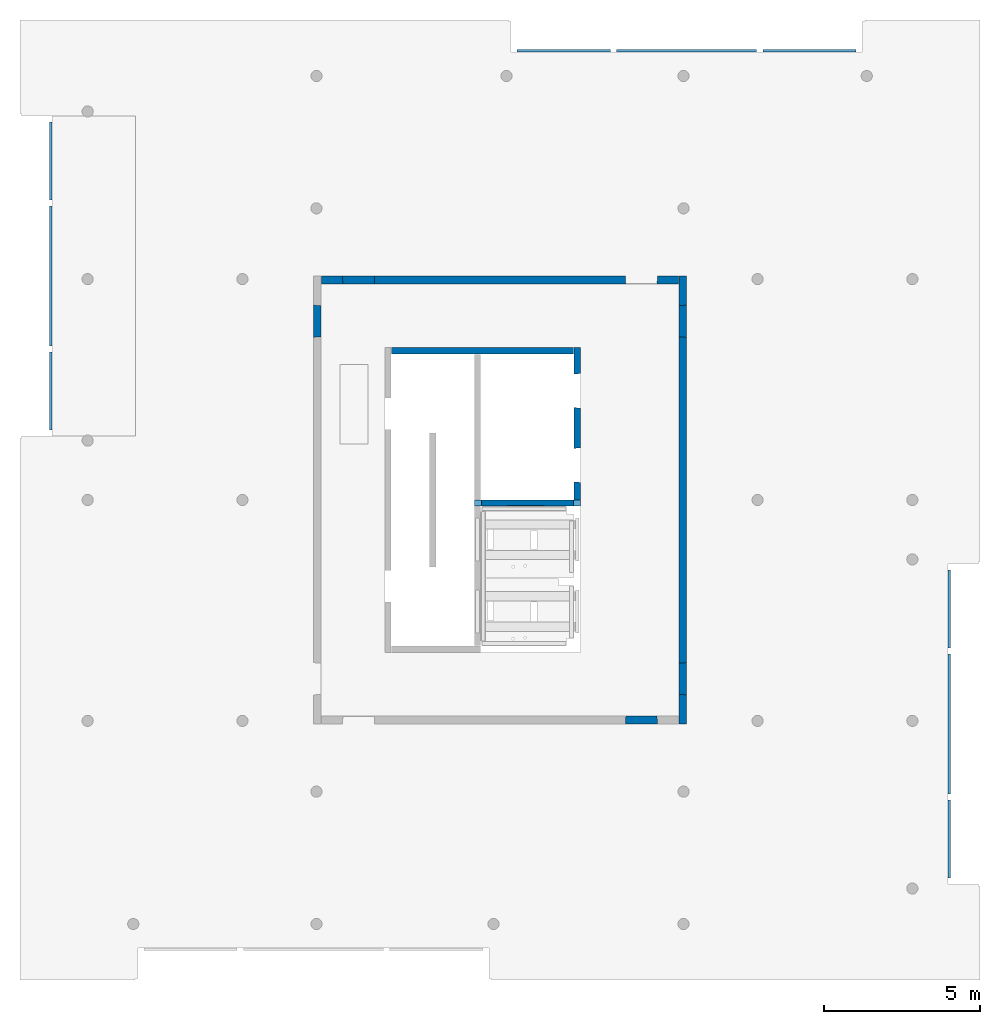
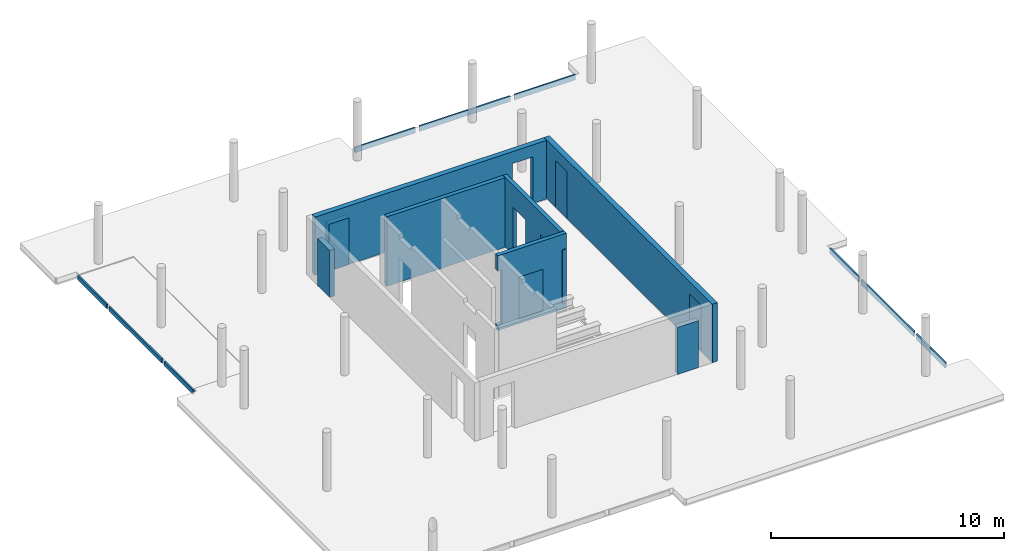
# One storey, part 3 of 4: 21 walls, 10 openings.
"""IFC2X3 building model written with IfcOpenShell, lengths in millimetres."""

from ifc_helpers import new_model, entity, si_unit, converted_unit, derived_unit, direction, frame, frame_2d, origin, origin_2d_with_axis, place, context, subcontext, project, spatial, rectangle, extrude, face_set, faceted_brep, surface_model, material, layer, layer_set, layer_usage, type_object, element, save


model = new_model("IFC2X3")

# Units and contexts
model_context = context("Model", 3, precision=0.01, world=origin(), true_north=direction((6.12303176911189e-17, 1.0)))
body_context = subcontext(model_context, "Body", "Model", "MODEL_VIEW")
ifc_project = project(units=[si_unit("LENGTHUNIT", "METRE", prefix="MILLI"), si_unit("AREAUNIT", "SQUARE_METRE"), si_unit("VOLUMEUNIT", "CUBIC_METRE"), converted_unit("PLANEANGLEUNIT", "DEGREE", entity("IfcRatioMeasure", 0.0174532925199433), si_unit("PLANEANGLEUNIT", "RADIAN"), dimensions=[0, 0, 0, 0, 0, 0, 0]), si_unit("MASSUNIT", "GRAM", prefix="KILO"), derived_unit("MASSDENSITYUNIT", [(si_unit("MASSUNIT", "GRAM", prefix="KILO"), 1), (si_unit("LENGTHUNIT", "METRE"), -3)]), si_unit("TIMEUNIT", "SECOND"), si_unit("FREQUENCYUNIT", "HERTZ"), si_unit("THERMODYNAMICTEMPERATUREUNIT", "DEGREE_CELSIUS"), derived_unit("THERMALTRANSMITTANCEUNIT", [(si_unit("MASSUNIT", "GRAM", prefix="KILO"), 1), (si_unit("THERMODYNAMICTEMPERATUREUNIT", "KELVIN"), -1), (si_unit("TIMEUNIT", "SECOND"), -3)]), derived_unit("VOLUMETRICFLOWRATEUNIT", [(si_unit("LENGTHUNIT", "METRE"), 3), (si_unit("TIMEUNIT", "SECOND"), -1)]), si_unit("ELECTRICCURRENTUNIT", "AMPERE"), si_unit("ELECTRICVOLTAGEUNIT", "VOLT"), si_unit("POWERUNIT", "WATT"), si_unit("FORCEUNIT", "NEWTON", prefix="KILO"), si_unit("ILLUMINANCEUNIT", "LUX"), si_unit("LUMINOUSFLUXUNIT", "LUMEN"), si_unit("LUMINOUSINTENSITYUNIT", "CANDELA"), derived_unit("USERDEFINED", [(si_unit("MASSUNIT", "GRAM", prefix="KILO"), -1), (si_unit("LENGTHUNIT", "METRE"), -2), (si_unit("TIMEUNIT", "SECOND"), 3), (si_unit("LUMINOUSFLUXUNIT", "LUMEN"), 1)]), derived_unit("LINEARVELOCITYUNIT", [(si_unit("LENGTHUNIT", "METRE"), 1), (si_unit("TIMEUNIT", "SECOND"), -1)]), si_unit("PRESSUREUNIT", "PASCAL"), derived_unit("USERDEFINED", [(si_unit("LENGTHUNIT", "METRE"), -2), (si_unit("MASSUNIT", "GRAM", prefix="KILO"), 1), (si_unit("TIMEUNIT", "SECOND"), -2)])], contexts=[model_context])

# Site, building, storey
site_placement = place(None, origin())
site = spatial("IfcSite", under=ifc_project, at=site_placement, Name="Default", CompositionType="ELEMENT")
building_placement = place(site_placement, origin())
building = spatial("IfcBuilding", under=site, at=building_placement, Name="niet gebruiken", CompositionType="ELEMENT")
storey_placement = place(building_placement, frame((0.0, 0.0, 175180.0)))
storey = spatial("IfcBuildingStorey", under=building, at=storey_placement, Name="56 zesenvijftigste verdieping", CompositionType="ELEMENT", Elevation=175180.0)

# Wall, openings
ifc_material_1 = material(Name="NLRS_f2_beton prefab")
ifc_layer_1 = layer(ifc_material_1, 200.0)
ifc_layer_set_1 = layer_set([ifc_layer_1], Name="Basic Wall:NLRS_22.21_WA_beton prefab d=200_gen")
ifc_layer_usage_1 = layer_usage(ifc_layer_set_1, "AXIS2", "NEGATIVE", 100.0)
wall_type_1 = type_object("IfcWallType", Name="Basic Wall:NLRS_22.21_WA_beton prefab d=200_gen", PredefinedType="STANDARD", material=ifc_layer_set_1)
wall_1_placement = place(storey_placement, frame((144230.0, 22400.0, -50.0), z_axis=(0.0, 0.0, 1.0), x_axis=(0.0, -1.0, 0.0)))
wall_1 = element("IfcWallStandardCase", 1, at=wall_1_placement, inside=storey, type_object=wall_type_1, material=ifc_layer_usage_1, Name="Basic Wall:NLRS_22.21_WA_beton prefab d=200_gen", ObjectType="Basic Wall:NLRS_22.21_WA_beton prefab d=200_gen", context=body_context, shape_type="SweptSolid", body=[
    extrude(rectangle(XDim=5100.0, YDim=199.999999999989, at=frame_2d((2550.0, 3.96482846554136e-12), x_axis=(-1.0, 0.0))), origin(), (0.0, 0.0, 1.0), 3640.0),
])
opening_1_placement = place(wall_1_placement, origin())
element("IfcOpeningElement", 2, at=opening_1_placement, cuts=wall_1, Name="Basic Wall:NLRS_22.21_WA_beton prefab d=200_gen", ObjectType="Opening", context=body_context, shape_type="SweptSolid", body=[
    extrude(rectangle(XDim=819.999999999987, YDim=220.000000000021, at=frame_2d((-1.73372427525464e-11, -1.08002495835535e-12), x_axis=(1.0, 0.0))), frame((4990.0, -100.0, 3230.0), z_axis=(0.0, 1.0, 0.0), x_axis=(0.0, 0.0, -1.0)), (0.0, 0.0, 1.0), 199.999999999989),
])
opening_2_placement = place(wall_1_placement, frame((4332.0, -100.0, 0.0)))
element("IfcOpeningElement", 3, at=opening_2_placement, cuts=wall_1, Name="Basic Wall:NLRS_22.21_WA_beton prefab d=200_gen", ObjectType="Opening", context=body_context, shape_type="Brep", body=[
    faceted_brep([(-1104.0, 200.0, 2502.0), (-1104.0, 200.0, 0.0), (-1092.0, 0.0, 0.0), (-1092.0, 0.0, 2490.0), (0.0, 200.0, 0.0), (-12.0, 0.0, 0.0), (-12.0, 0.0, 2490.0), (0.0, 200.0, 2502.0)], [[[0, 1, 2, 3]], [[1, 4, 5, 2]], [[6, 3, 2, 5]], [[7, 4, 1, 0]], [[7, 0, 3, 6]], [[4, 7, 6, 5]]]),
])
opening_3_placement = place(wall_1_placement, frame((1942.0, -100.0, 0.0)))
element("IfcOpeningElement", 4, at=opening_3_placement, cuts=wall_1, Name="Basic Wall:NLRS_22.21_WA_beton prefab d=200_gen", ObjectType="Opening", context=body_context, shape_type="Brep", body=[
    faceted_brep([(-1104.0, 200.0, 2502.0), (-1104.0, 200.0, 0.0), (-1092.0, 0.0, 0.0), (-1092.0, 0.0, 2490.0), (0.0, 200.0, 0.0), (-12.0, 0.0, 0.0), (-12.0, 0.0, 2490.0), (0.0, 200.0, 2502.0)], [[[0, 1, 2, 3]], [[1, 4, 5, 2]], [[6, 3, 2, 5]], [[7, 4, 1, 0]], [[7, 0, 3, 6]], [[4, 7, 6, 5]]]),
])

# Wall
ifc_layer_usage_2 = layer_usage(ifc_layer_set_1, "AXIS2", "NEGATIVE", 100.0)
wall_2_placement = place(storey_placement, frame((138270.0, 22300.0, -50.0)))
element("IfcWallStandardCase", 5, at=wall_2_placement, inside=storey, type_object=wall_type_1, material=ifc_layer_usage_2, Name="Basic Wall:NLRS_22.21_WA_beton prefab d=200_gen", ObjectType="Basic Wall:NLRS_22.21_WA_beton prefab d=200_gen", context=body_context, shape_type="SweptSolid", body=[
    extrude(rectangle(XDim=5839.99999999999, YDim=199.999999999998, at=frame_2d((2919.99999999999, -7.60280727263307e-13), x_axis=(-1.0, 0.0))), origin(), (0.0, 0.0, 1.0), 3640.0),
])

# Wall, openings
ifc_layer_usage_3 = layer_usage(ifc_layer_set_1, "AXIS2", "NEGATIVE", 100.0)
wall_3_placement = place(storey_placement, frame((140930.0, 17400.0, -320.0)))
wall_3 = element("IfcWallStandardCase", 6, at=wall_3_placement, inside=storey, type_object=wall_type_1, material=ifc_layer_usage_3, Name="Basic Wall:NLRS_22.21_WA_beton prefab d=200_gen", ObjectType="Basic Wall:NLRS_22.21_WA_beton prefab d=200_gen", context=body_context, shape_type="SweptSolid", body=[
    extrude(rectangle(XDim=3400.00000000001, YDim=200.000000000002, at=frame_2d((1700.0, 0.0), x_axis=(-1.0, 0.0))), origin(), (0.0, 0.0, 1.0), 3910.00000000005),
])
opening_4_placement = place(wall_3_placement, origin())
element("IfcOpeningElement", 7, at=opening_4_placement, cuts=wall_3, Name="Basic Wall:NLRS_22.21_WA_beton prefab d=200_gen", ObjectType="Opening", context=body_context, shape_type="SweptSolid", body=[
    extrude(rectangle(XDim=2840.00000000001, YDim=220.000000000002, at=frame_2d((1.72803993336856e-11, 8.66862137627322e-12), x_axis=(1.0, 0.0))), frame((110.0, -100.0, 1690.0), z_axis=(0.0, 1.0, 0.0), x_axis=(0.0, 0.0, -1.0)), (0.0, 0.0, 1.0), 200.0),
])
opening_5_placement = place(wall_3_placement, origin())
element("IfcOpeningElement", 8, at=opening_5_placement, cuts=wall_3, Name="Basic Wall:NLRS_22.21_WA_beton prefab d=200_gen", ObjectType="Opening", context=body_context, shape_type="SweptSolid", body=[
    extrude(rectangle(XDim=2840.00000000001, YDim=220.000000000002, at=frame_2d((1.72803993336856e-11, -8.66862137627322e-12), x_axis=(1.0, 0.0))), frame((3290.0, -100.0, 1690.0), z_axis=(0.0, 1.0, 0.0), x_axis=(0.0, 0.0, -1.0)), (0.0, 0.0, 1.0), 199.999999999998),
])
opening_6_placement = place(wall_3_placement, origin())
element("IfcOpeningElement", 9, at=opening_6_placement, cuts=wall_3, Name="Basic Wall:NLRS_22.21_WA_beton prefab d=200_gen", ObjectType="Recess", context=body_context, shape_type="SweptSolid", body=[
    extrude(rectangle(XDim=2199.99999999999, YDim=1200.0, at=origin_2d_with_axis()), frame((1650.0, -100.0, 1330.0), z_axis=(0.0, 1.0, 0.0), x_axis=(0.0, 0.0, -1.0)), (0.0, 0.0, 1.0), 29.9999999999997),
])

ifc_layer_2 = layer(ifc_material_1, 250.0)
ifc_layer_set_2 = layer_set([ifc_layer_2], Name="Basic Wall:NLRS_22.21_WA_beton prefab d=250_gen")
ifc_layer_usage_4 = layer_usage(ifc_layer_set_2, "AXIS2", "NEGATIVE", 125.0)
wall_type_2 = type_object("IfcWallType", Name="Basic Wall:NLRS_22.21_WA_beton prefab d=250_gen", PredefinedType="STANDARD", material=ifc_layer_set_2)
wall_4_placement = place(storey_placement, frame((136020.0, 24575.0, -60.0)))
wall_4 = element("IfcWallStandardCase", 10, at=wall_4_placement, inside=storey, type_object=wall_type_2, material=ifc_layer_usage_4, Name="Basic Wall:NLRS_22.21_WA_beton prefab d=250_gen", ObjectType="Basic Wall:NLRS_22.21_WA_beton prefab d=250_gen", context=body_context, shape_type="SweptSolid", body=[
    extrude(rectangle(XDim=11460.0, YDim=250.000000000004, at=frame_2d((5730.00000000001, 0.0), x_axis=(-1.0, 0.0))), origin(), (0.0, 0.0, 1.0), 3060.0),
])
opening_7_placement = place(wall_4_placement, frame((9759.0, -125.0, -10.0)))
element("IfcOpeningElement", 11, at=opening_7_placement, cuts=wall_4, Name="Basic Wall:NLRS_22.21_WA_beton prefab d=250_gen", ObjectType="Opening", context=body_context, shape_type="Brep", body=[
    faceted_brep([(0.0, 250.0, 2463.0), (0.0, 250.0, 0.0), (15.0, 0.0, 0.0), (15.0, 0.0, 2448.0), (1036.0, 250.0, 0.0), (1021.0, 0.0, 0.0), (1021.0, 0.0, 2448.0), (1036.0, 250.0, 2463.0)], [[[0, 1, 2, 3]], [[1, 4, 5, 2]], [[6, 3, 2, 5]], [[7, 4, 1, 0]], [[7, 0, 3, 6]], [[4, 7, 6, 5]]]),
])
opening_8_placement = place(wall_4_placement, frame((665.0, -125.0, -10.0)))
element("IfcOpeningElement", 12, at=opening_8_placement, cuts=wall_4, Name="Basic Wall:NLRS_22.21_WA_beton prefab d=250_gen", ObjectType="Opening", context=body_context, shape_type="Brep", body=[
    faceted_brep([(0.0, 250.0, 2463.0), (0.0, 250.0, 0.0), (15.0, 0.0, 0.0), (15.0, 0.0, 2448.0), (1036.0, 250.0, 0.0), (1021.0, 0.0, 0.0), (1021.0, 0.0, 2448.0), (1036.0, 250.0, 2463.0)], [[[0, 1, 2, 3]], [[1, 4, 5, 2]], [[6, 3, 2, 5]], [[7, 4, 1, 0]], [[7, 0, 3, 6]], [[4, 7, 6, 5]]]),
])

ifc_layer_usage_5 = layer_usage(ifc_layer_set_2, "AXIS2", "NEGATIVE", 125.0)
wall_5_placement = place(storey_placement, frame((147625.0, 24700.0, -60.0), z_axis=(0.0, 0.0, 1.0), x_axis=(0.0, -1.0, 0.0)))
wall_5 = element("IfcWallStandardCase", 13, at=wall_5_placement, inside=storey, type_object=wall_type_2, material=ifc_layer_usage_5, Name="Basic Wall:NLRS_22.21_WA_beton prefab d=250_gen", ObjectType="Basic Wall:NLRS_22.21_WA_beton prefab d=250_gen", context=body_context, shape_type="SweptSolid", body=[
    extrude(rectangle(XDim=14400.0, YDim=250.000000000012, at=frame_2d((7199.99999999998, 0.0), x_axis=(-1.0, 0.0))), origin(), (0.0, 0.0, 1.0), 3060.0),
])
opening_9_placement = place(wall_5_placement, frame((13465.0, -125.0, -10.0)))
element("IfcOpeningElement", 14, at=opening_9_placement, cuts=wall_5, Name="Basic Wall:NLRS_22.21_WA_beton prefab d=250_gen", ObjectType="Opening", context=body_context, shape_type="Brep", body=[
    faceted_brep([(-1036.0, 250.0, 2463.0), (-1036.0, 250.0, 0.0), (-1021.0, 0.0, 0.0), (-1021.0, 0.0, 2448.0), (0.0, 250.0, 0.0), (-15.0, 0.0, 0.0), (-15.0, 0.0, 2448.0), (0.0, 250.0, 2463.0)], [[[0, 1, 2, 3]], [[1, 4, 5, 2]], [[6, 3, 2, 5]], [[7, 4, 1, 0]], [[7, 0, 3, 6]], [[4, 7, 6, 5]]]),
])
opening_10_placement = place(wall_5_placement, frame((1971.0, -125.0, -10.0)))
element("IfcOpeningElement", 15, at=opening_10_placement, cuts=wall_5, Name="Basic Wall:NLRS_22.21_WA_beton prefab d=250_gen", ObjectType="Opening", context=body_context, shape_type="Brep", body=[
    faceted_brep([(-1036.0, 250.0, 2463.0), (-1036.0, 250.0, 0.0), (-1021.0, 0.0, 0.0), (-1021.0, 0.0, 2448.0), (0.0, 250.0, 0.0), (-15.0, 0.0, 0.0), (-15.0, 0.0, 2448.0), (0.0, 250.0, 2463.0)], [[[0, 1, 2, 3]], [[1, 4, 5, 2]], [[6, 3, 2, 5]], [[7, 4, 1, 0]], [[7, 0, 3, 6]], [[4, 7, 6, 5]]]),
])

# Walls
ifc_material_2 = material(Name="NLRS_f2_beton prefab dichtstorten")
wall_type_3 = type_object("IfcWallType", Name="Parametric Wall:NLRS_22.21_WA_beton prefab d=250 1006x2448_gen", PredefinedType="NOTDEFINED", material=ifc_material_2)
wall_6_placement = place(storey_placement, frame((136685.0, 24450.0, -70.0)))
element("IfcWall", 16, at=wall_6_placement, inside=storey, type_object=wall_type_3, material=ifc_material_2, Name="Parametric Wall:NLRS_22.21_WA_beton prefab d=250 1006x2448_gen", ObjectType="Parametric Wall:NLRS_22.21_WA_beton prefab d=250 1006x2448_gen", context=body_context, shape_type="SurfaceModel", body=[
    surface_model("IfcFaceBasedSurfaceModel", [(1036.0, 250.0, 2463.0), (1036.0, 250.0, 0.0), (0.0, 250.0, 0.0), (0.0, 250.0, 2463.0), (1021.0, 0.0, 2448.0), (1021.0, 0.0, 0.0), (15.0, 0.0, 0.0), (15.0, 0.0, 2448.0)], [face_set([[[0, 1, 2, 3]], [[4, 5, 6, 7]], [[4, 5, 1, 0]], [[5, 6, 2, 1]], [[6, 2, 3, 7]], [[7, 4, 0, 3]]])]),
])
wall_7_placement = place(storey_placement, frame((135750.0, 22729.0, -70.0), z_axis=(0.0, 0.0, 1.0), x_axis=(0.0, 1.0, 0.0)))
element("IfcWall", 17, at=wall_7_placement, inside=storey, type_object=wall_type_3, material=ifc_material_2, Name="Parametric Wall:NLRS_22.21_WA_beton prefab d=250 1006x2448_gen", ObjectType="Parametric Wall:NLRS_22.21_WA_beton prefab d=250 1006x2448_gen", context=body_context, shape_type="Brep", body=[
    faceted_brep([(1036.0, 0.0, 2463.0), (1036.0, 0.0, 0.0), (0.0, 0.0, 0.0), (0.0, 0.0, 2463.0), (1021.0, -250.0, 2448.0), (15.0, -250.0, 2448.0), (15.0, -250.0, 0.0), (1021.0, -250.0, 0.0)], [[[0, 1, 2, 3]], [[4, 5, 6, 7]], [[4, 7, 1, 0]], [[7, 6, 2, 1]], [[6, 5, 3, 2]], [[5, 4, 0, 3]]]),
])
wall_8_placement = place(storey_placement, frame((145779.0, 10300.0, -70.0)))
element("IfcWall", 18, at=wall_8_placement, inside=storey, type_object=wall_type_3, material=ifc_material_2, Name="Parametric Wall:NLRS_22.21_WA_beton prefab d=250 1006x2448_gen", ObjectType="Parametric Wall:NLRS_22.21_WA_beton prefab d=250 1006x2448_gen", context=body_context, shape_type="Brep", body=[
    faceted_brep([(0.0, 0.0, 2463.0), (0.0, 0.0, 10.0), (0.0, 0.0, 0.0), (1036.0, 0.0, 0.0), (1036.0, 0.0, 10.0), (1036.0, 0.0, 2463.0), (15.0, 250.0, 2448.0), (1021.0, 250.0, 2448.0), (1021.0, 250.0, 10.0), (1021.0, 250.0, 0.0), (15.0, 250.0, 0.0), (15.0, 250.0, 10.0)], [[[0, 1, 2, 3, 4, 5]], [[6, 7, 8, 9, 10, 11]], [[6, 11, 10, 2, 1, 0]], [[9, 8, 7, 5, 4, 3]], [[10, 9, 3, 2]], [[7, 6, 0, 5]]]),
])
for number, where, z_axis, x_axis in (
    (19, (147500.0, 11235.0, -70.0), (0.0, 0.0, 1.0), (0.0, 1.0, 0.0)),
    (20, (147500.0, 22729.0, -70.0), (0.0, 0.0, 1.0), (0.0, 1.0, 0.0)),
):
    element("IfcWall", number, at=place(storey_placement, frame(where, z_axis=z_axis, x_axis=x_axis)), inside=storey, type_object=wall_type_3, material=ifc_material_2, Name="Parametric Wall:NLRS_22.21_WA_beton prefab d=250 1006x2448_gen", ObjectType="Parametric Wall:NLRS_22.21_WA_beton prefab d=250 1006x2448_gen", context=body_context, shape_type="Brep", body=[
        faceted_brep([(0.0, -250.0, 2463.0), (0.0, -250.0, 10.0), (0.0, -250.0, 0.0), (1036.0, -250.0, 0.0), (1036.0, -250.0, 10.0), (1036.0, -250.0, 2463.0), (15.0, 0.0, 2448.0), (1021.0, 0.0, 2448.0), (1021.0, 0.0, 10.0), (1021.0, 0.0, 0.0), (15.0, 0.0, 0.0), (15.0, 0.0, 10.0)], [[[0, 1, 2, 3, 4, 5]], [[6, 7, 8, 9, 10, 11]], [[6, 11, 10, 2, 1, 0]], [[9, 8, 7, 5, 4, 3]], [[10, 9, 3, 2]], [[7, 6, 0, 5]]]),
    ])
wall_9_placement = place(storey_placement, frame((136685.0, 24450.0, -70.0)))
element("IfcWall", 21, at=wall_9_placement, inside=storey, type_object=wall_type_3, material=ifc_material_2, Name="Parametric Wall:NLRS_22.21_WA_beton prefab d=250 1006x2448_gen", ObjectType="Parametric Wall:NLRS_22.21_WA_beton prefab d=250 1006x2448_gen", context=body_context, shape_type="Brep", body=[
    faceted_brep([(1036.0, 250.0, 2463.0), (1036.0, 250.0, 10.0), (1036.0, 250.0, 0.0), (0.0, 250.0, 0.0), (0.0, 250.0, 10.0), (0.0, 250.0, 2463.0), (1021.0, 0.0, 2448.0), (15.0, 0.0, 2448.0), (15.0, 0.0, 10.0), (15.0, 0.0, 0.0), (1021.0, 0.0, 0.0), (1021.0, 0.0, 10.0)], [[[0, 1, 2, 3, 4, 5]], [[6, 7, 8, 9, 10, 11]], [[6, 11, 10, 2, 1, 0]], [[9, 8, 7, 5, 4, 3]], [[10, 9, 3, 2]], [[7, 6, 0, 5]]]),
])
wall_10_placement = place(storey_placement, frame((135750.0, 22729.0, -70.0), z_axis=(0.0, 0.0, 1.0), x_axis=(0.0, 1.0, 0.0)))
element("IfcWall", 22, at=wall_10_placement, inside=storey, type_object=wall_type_3, material=ifc_material_2, Name="Parametric Wall:NLRS_22.21_WA_beton prefab d=250 1006x2448_gen", ObjectType="Parametric Wall:NLRS_22.21_WA_beton prefab d=250 1006x2448_gen", context=body_context, shape_type="Brep", body=[
    faceted_brep([(1036.0, 0.0, 2463.0), (1036.0, 0.0, 10.0), (1036.0, 0.0, 0.0), (0.0, 0.0, 0.0), (0.0, 0.0, 10.0), (0.0, 0.0, 2463.0), (1021.0, -250.0, 2448.0), (15.0, -250.0, 2448.0), (15.0, -250.0, 10.0), (15.0, -250.0, 0.0), (1021.0, -250.0, 0.0), (1021.0, -250.0, 10.0)], [[[0, 1, 2, 3, 4, 5]], [[6, 7, 8, 9, 10, 11]], [[6, 11, 10, 2, 1, 0]], [[9, 8, 7, 5, 4, 3]], [[10, 9, 3, 2]], [[7, 6, 0, 5]]]),
])
ifc_material_3 = material(Name="NLRS_a_isolatie")
ifc_layer_3 = layer(ifc_material_3, 80.0)
ifc_layer_set_3 = layer_set([ifc_layer_3], Name="Basic Wall:NLRS_21.10_WA_isokorf d=80_gen")
ifc_layer_usage_6 = layer_usage(ifc_layer_set_3, "AXIS2", "NEGATIVE", 40.0)
wall_type_4 = type_object("IfcWallType", Name="Basic Wall:NLRS_21.10_WA_isokorf d=80_gen", PredefinedType="STANDARD", material=ifc_layer_set_3)
wall_11_placement = place(storey_placement, frame((145500.0, 31945.0, -360.0)))
element("IfcWallStandardCase", 23, at=wall_11_placement, inside=storey, type_object=wall_type_4, material=ifc_layer_usage_6, Name="Basic Wall:NLRS_21.10_WA_isokorf d=80_gen", ObjectType="Basic Wall:NLRS_21.10_WA_isokorf d=80_gen", context=body_context, shape_type="SweptSolid", body=[
    extrude(rectangle(XDim=4500.0, YDim=79.9999999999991, at=frame_2d((2250.0, -1.45661260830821e-12), x_axis=(-1.0, 0.0))), origin(), (0.0, 0.0, 1.0), 269.999999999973),
])
ifc_layer_usage_7 = layer_usage(ifc_layer_set_3, "AXIS2", "NEGATIVE", 40.0)
wall_12_placement = place(storey_placement, frame((127305.0, 22450.0, -360.0), z_axis=(0.0, 0.0, 1.0), x_axis=(0.0, 1.0, 0.0)))
element("IfcWallStandardCase", 24, at=wall_12_placement, inside=storey, type_object=wall_type_4, material=ifc_layer_usage_7, Name="Basic Wall:NLRS_21.10_WA_isokorf d=80_gen", ObjectType="Basic Wall:NLRS_21.10_WA_isokorf d=80_gen", context=body_context, shape_type="SweptSolid", body=[
    extrude(rectangle(XDim=4500.0, YDim=80.0000000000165, at=frame_2d((2250.0, 3.5420555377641e-12), x_axis=(-1.0, 0.0))), origin(), (0.0, 0.0, 1.0), 220.000000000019),
])
ifc_layer_usage_8 = layer_usage(ifc_layer_set_3, "AXIS2", "NEGATIVE", 40.0)
wall_13_placement = place(storey_placement, frame((156195.0, 12550.0, -360.0), z_axis=(0.0, 0.0, 1.0), x_axis=(0.0, -1.0, 0.0)))
element("IfcWallStandardCase", 25, at=wall_13_placement, inside=storey, type_object=wall_type_4, material=ifc_layer_usage_8, Name="Basic Wall:NLRS_21.10_WA_isokorf d=80_gen", ObjectType="Basic Wall:NLRS_21.10_WA_isokorf d=80_gen", context=body_context, shape_type="SweptSolid", body=[
    extrude(rectangle(XDim=4500.0, YDim=79.9999999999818, at=frame_2d((2250.0, -6.12487838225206e-12), x_axis=(-1.0, 0.0))), origin(), (0.0, 0.0, 1.0), 269.999999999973),
])
ifc_layer_usage_9 = layer_usage(ifc_layer_set_3, "AXIS2", "NEGATIVE", 40.0)
wall_14_placement = place(storey_placement, frame((142300.0, 31945.0, -360.0)))
element("IfcWallStandardCase", 26, at=wall_14_placement, inside=storey, type_object=wall_type_4, material=ifc_layer_usage_9, Name="Basic Wall:NLRS_21.10_WA_isokorf d=80_gen", ObjectType="Basic Wall:NLRS_21.10_WA_isokorf d=80_gen", context=body_context, shape_type="SweptSolid", body=[
    extrude(rectangle(XDim=2999.99999999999, YDim=79.9999999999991, at=frame_2d((1500.0, -1.69464442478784e-12), x_axis=(-1.0, 0.0))), origin(), (0.0, 0.0, 1.0), 269.999999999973),
])
ifc_layer_usage_10 = layer_usage(ifc_layer_set_3, "AXIS2", "NEGATIVE", 40.0)
wall_15_placement = place(storey_placement, frame((150200.0, 31945.0, -360.0)))
element("IfcWallStandardCase", 27, at=wall_15_placement, inside=storey, type_object=wall_type_4, material=ifc_layer_usage_10, Name="Basic Wall:NLRS_21.10_WA_isokorf d=80_gen", ObjectType="Basic Wall:NLRS_21.10_WA_isokorf d=80_gen", context=body_context, shape_type="SweptSolid", body=[
    extrude(rectangle(XDim=2999.99999999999, YDim=79.9999999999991, at=frame_2d((1500.0, -1.69464442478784e-12), x_axis=(-1.0, 0.0))), origin(), (0.0, 0.0, 1.0), 269.999999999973),
])
ifc_layer_usage_11 = layer_usage(ifc_layer_set_3, "AXIS2", "NEGATIVE", 40.0)
wall_16_placement = place(storey_placement, frame((156195.0, 15250.0, -360.0), z_axis=(0.0, 0.0, 1.0), x_axis=(0.0, -1.0, 0.0)))
element("IfcWallStandardCase", 28, at=wall_16_placement, inside=storey, type_object=wall_type_4, material=ifc_layer_usage_11, Name="Basic Wall:NLRS_21.10_WA_isokorf d=80_gen", ObjectType="Basic Wall:NLRS_21.10_WA_isokorf d=80_gen", context=body_context, shape_type="SweptSolid", body=[
    extrude(rectangle(XDim=2499.99999999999, YDim=79.9999999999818, at=frame_2d((1250.0, 6.22435436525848e-12), x_axis=(-1.0, 0.0))), origin(), (0.0, 0.0, 1.0), 269.999999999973),
])
ifc_layer_usage_12 = layer_usage(ifc_layer_set_3, "AXIS2", "NEGATIVE", 40.0)
wall_17_placement = place(storey_placement, frame((156195.0, 7850.0, -360.0), z_axis=(0.0, 0.0, 1.0), x_axis=(0.0, -1.0, 0.0)))
element("IfcWallStandardCase", 29, at=wall_17_placement, inside=storey, type_object=wall_type_4, material=ifc_layer_usage_12, Name="Basic Wall:NLRS_21.10_WA_isokorf d=80_gen", ObjectType="Basic Wall:NLRS_21.10_WA_isokorf d=80_gen", context=body_context, shape_type="SweptSolid", body=[
    extrude(rectangle(XDim=2500.0, YDim=79.9999999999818, at=frame_2d((1250.0, 6.22435436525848e-12), x_axis=(-1.0, 0.0))), origin(), (0.0, 0.0, 1.0), 269.999999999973),
])
ifc_layer_usage_13 = layer_usage(ifc_layer_set_3, "AXIS2", "NEGATIVE", 40.0)
wall_18_placement = place(storey_placement, frame((127305.0, 27150.0, -360.0), z_axis=(0.0, 0.0, 1.0), x_axis=(0.0, 1.0, 0.0)))
element("IfcWallStandardCase", 30, at=wall_18_placement, inside=storey, type_object=wall_type_4, material=ifc_layer_usage_13, Name="Basic Wall:NLRS_21.10_WA_isokorf d=80_gen", ObjectType="Basic Wall:NLRS_21.10_WA_isokorf d=80_gen", context=body_context, shape_type="SweptSolid", body=[
    extrude(rectangle(XDim=2499.99999999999, YDim=80.0000000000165, at=frame_2d((1250.0, 1.00541797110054e-12), x_axis=(-1.0, 0.0))), origin(), (0.0, 0.0, 1.0), 220.000000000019),
])
ifc_layer_usage_14 = layer_usage(ifc_layer_set_3, "AXIS2", "NEGATIVE", 40.0)
wall_19_placement = place(storey_placement, frame((127305.0, 19750.0, -360.0), z_axis=(0.0, 0.0, 1.0), x_axis=(0.0, 1.0, 0.0)))
element("IfcWallStandardCase", 31, at=wall_19_placement, inside=storey, type_object=wall_type_4, material=ifc_layer_usage_14, Name="Basic Wall:NLRS_21.10_WA_isokorf d=80_gen", ObjectType="Basic Wall:NLRS_21.10_WA_isokorf d=80_gen", context=body_context, shape_type="SweptSolid", body=[
    extrude(rectangle(XDim=2500.0, YDim=80.0000000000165, at=frame_2d((1250.0, 1.00541797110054e-12), x_axis=(-1.0, 0.0))), origin(), (0.0, 0.0, 1.0), 220.000000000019),
])

save(model, "model.ifc")
